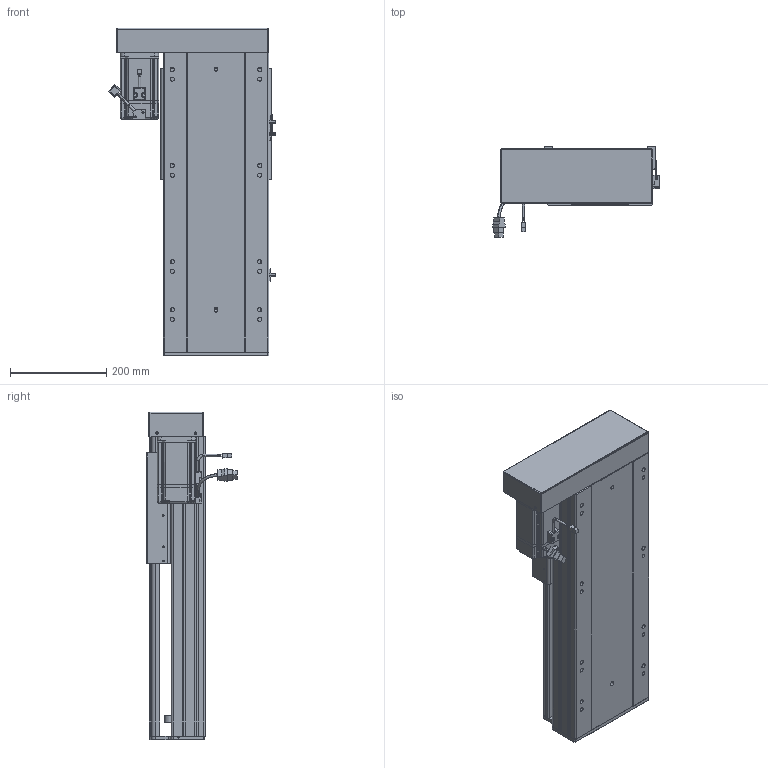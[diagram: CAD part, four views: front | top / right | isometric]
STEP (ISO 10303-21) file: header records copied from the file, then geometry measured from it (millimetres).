
FILE_DESCRIPTION (( 'STEP AP203' ), '1' );
FILE_NAME ('RY220-L2525-300-LK.SLDASM_默认.step', '2022-07-04T01:46:07', ( '' ), ( '' ), 'SwSTEP 2.0', 'SolidWorks 2016', '' );
FILE_SCHEMA (( 'CONFIG_CONTROL_DESIGN' ));
Length unit declared in the file: millimetre
Products named in the file (12): RY220半封闭25-32螺母铝滑块; RY220蛌殏菁釱-300; RY220-L2525-300-LK.SLDASM_默认; RY220-300-蛌殏奻裔啣; 滅袉蝶18-10; RY220-俋离672覜茼んえ; RY220酘衵殏萇儂欶; 怢湛750W_ECMA-CX0807ES; 滅袉蝶18-15; RY220左右折电机安装板; 覜茼ん672; RY220綴裔啣
Assembly tree (15 placements, depth 2):
  RY220-L2525-300-LK.SLDASM_默认
    RY220蛌殏菁釱-300
    RY220-300-蛌殏奻裔啣
    怢湛750W_ECMA-CX0807ES
    滅袉蝶18-10  x2
    RY220-俋离672覜茼んえ
    覜茼ん672  x3
    RY220綴裔啣
    RY220半封闭25-32螺母铝滑块
    滅袉蝶18-15  x2
    RY220左右折电机安装板
    RY220酘衵殏萇儂欶
Bounding box: 347.44 x 189.27 x 682 mm (x, y, z)
Volume: 7028636.4 mm3; surface area: 1901510.1 mm2
Topology: 16 solids, 16 shells, 2017 faces, 5556 edges, 3539 vertices
Faces by surface type: plane 896, cylinder 877, cone 174, bspline 44, sphere 16, torus 10
Entity records: 66461 total; most frequent: CARTESIAN_POINT 19459, ORIENTED_EDGE 9792, DIRECTION 9080, EDGE_CURVE 4896, VERTEX_POINT 3195, AXIS2_PLACEMENT_3D 3147, VECTOR 2786, LINE 2786
